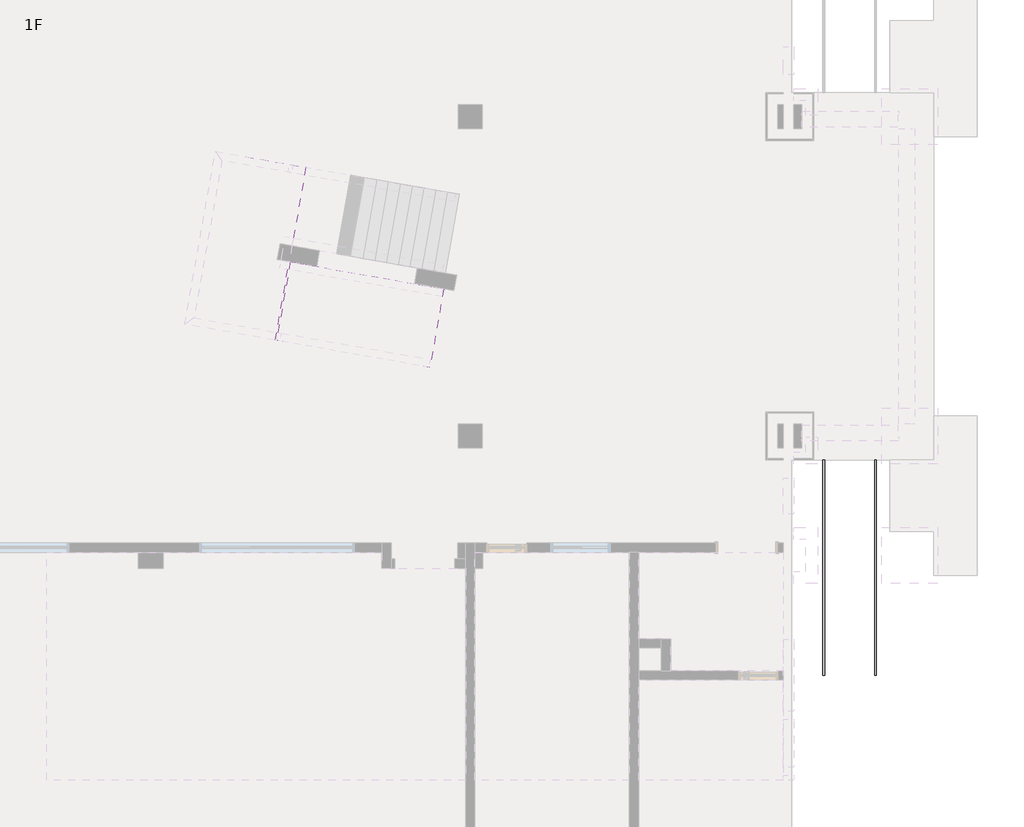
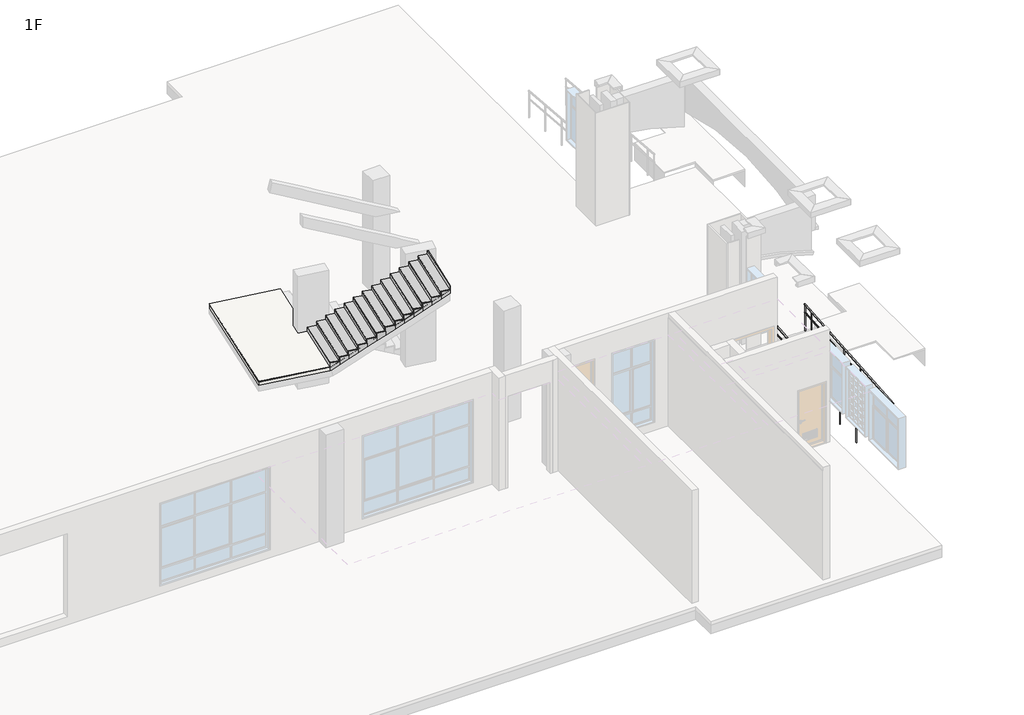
# One storey, part 11 of 16: 2 railings, 1 slab, 1 stair flight.
"""IFC4 building model written with IfcOpenShell, lengths in millimetres."""

from ifc_helpers import new_model, si_unit, frame, origin, place, context, project, spatial, polyline, ellipse_curve, outline, extrude, faceted_brep, element, save
from ifc_brep_helpers import plane_surface, cylinder_surface, advanced_brep

model = new_model("IFC4")

# Units and contexts
model_context = context("Model", 3, world=origin())
ifc_project = project(units=[si_unit("LENGTHUNIT", "METRE", prefix="MILLI")], contexts=[model_context])

# Site, building, storey
site = spatial("IfcSite", under=ifc_project)
building = spatial("IfcBuilding", under=site)
storey = spatial("IfcBuildingStorey", under=building, Name="1F", Elevation=0.0)

# Railings
placement = place(None, origin())
element("IfcRailing", 1, ObjectType="教学楼 – 无障碍坡道扶手 – 1000mm", at=placement, inside=storey, context=model_context, shape_type="AdvancedBrep", body=[
    advanced_brep(
    [(85170.0, 6600.0, 529.9306757), (85130.0, 6600.0, 529.9306757), (85170.0, 12000.0, 979.9306757), (85130.0, 12000.0, 979.9306757)],
    [
        (0, 1, ellipse_curve(frame((85150.0, 6600.0, 529.9306757), z_axis=(0.0, -1.0, 0.0), x_axis=(0.0, 0.0, -1.0)), 20.0693243, 20.0)),
        (1, 0, ellipse_curve(frame((85150.0, 6600.0, 529.9306757), z_axis=(0.0, -1.0, 0.0), x_axis=(0.0, 0.0, -1.0)), 20.0693243, 20.0)),
        (2, 3, ellipse_curve(frame((85150.0, 12000.0, 979.9306757), z_axis=(0.0, 1.0, 0.0), x_axis=(0.0, 0.0, -1.0)), 20.0693243, 20.0)),
        (3, 2, ellipse_curve(frame((85150.0, 12000.0, 979.9306757), z_axis=(0.0, 1.0, 0.0), x_axis=(0.0, 0.0, -1.0)), 20.0693243, 20.0)),
        (0, 2),
        (3, 1),
    ],
    [
        plane_surface(frame((85150.0, 6600.0, 550.0), z_axis=(0.0, -1.0, 0.0), x_axis=(0.0, 0.0, 1.0))),
        plane_surface(frame((85150.0, 12000.0, 1000.0), z_axis=(0.0, 1.0, 0.0), x_axis=(0.0, 0.0, 1.0))),
        cylinder_surface(frame((85150.0, 6601.6609096, 530.0690848), z_axis=(0.0, -0.9965457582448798, -0.08304547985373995), x_axis=(-1.0, 0.0, 0.0)), 20.0),
    ],
    [
        (0, [[1, 2]]),
        (1, [[3, 4]]),
        (2, [[-1, 5, -4, 6]]),
        (2, [[-2, -6, -3, -5]]),
    ],
),
    advanced_brep(
    [(85135.0, 6600.0, 234.9480068), (85165.0, 6600.0, 234.9480068), (85135.0, 12000.0, 684.9480068), (85165.0, 12000.0, 684.9480068)],
    [
        (0, 1, ellipse_curve(frame((85150.0, 6600.0, 234.9480068), z_axis=(0.0, -1.0, 0.0), x_axis=(0.0, 0.0, -1.0)), 15.0519932, 15.0)),
        (1, 0, ellipse_curve(frame((85150.0, 6600.0, 234.9480068), z_axis=(0.0, -1.0, 0.0), x_axis=(0.0, 0.0, -1.0)), 15.0519932, 15.0)),
        (2, 3, ellipse_curve(frame((85150.0, 12000.0, 684.9480068), z_axis=(0.0, 1.0, 0.0), x_axis=(0.0, 0.0, -1.0)), 15.0519932, 15.0)),
        (3, 2, ellipse_curve(frame((85150.0, 12000.0, 684.9480068), z_axis=(0.0, 1.0, 0.0), x_axis=(0.0, 0.0, -1.0)), 15.0519932, 15.0)),
        (0, 2),
        (3, 1),
    ],
    [
        plane_surface(frame((85150.0, 6600.0, 250.0), z_axis=(0.0, -1.0, 0.0), x_axis=(0.0, 0.0, 1.0))),
        plane_surface(frame((85150.0, 12000.0, 700.0), z_axis=(0.0, 1.0, 0.0), x_axis=(0.0, 0.0, 1.0))),
        cylinder_surface(frame((85150.0, 6601.2456822, 235.0518136), z_axis=(0.0, -0.9965457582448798, -0.08304547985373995), x_axis=(1.0, 0.0, 0.0)), 15.0),
    ],
    [
        (0, [[1, 2]]),
        (1, [[3, 4]]),
        (2, [[-1, 5, -4, 6]]),
        (2, [[-2, -6, -3, -5]]),
    ],
),
    advanced_brep(
    [(85162.5, 11600.0, 926.5280181), (85162.5, 11600.0, -33.3333333), (85137.5, 11600.0, -33.3333333), (85137.5, 11600.0, 926.5280181)],
    [
        (0, 1),
        (1, 2, ellipse_curve(frame((85150.0, 11600.0, -33.3333333), z_axis=(0.0, -0.08304547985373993, 0.9965457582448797), x_axis=(0.0, 0.9965457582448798, 0.08304547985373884)), 12.5433277, 12.5)),
        (2, 3),
        (3, 0, ellipse_curve(frame((85150.0, 11600.0, 926.5280181), z_axis=(0.0, 0.08304547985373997, -0.9965457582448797), x_axis=(0.0, 0.9965457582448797, 0.0830454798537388)), 12.5433277, 12.5)),
        (0, 3, ellipse_curve(frame((85150.0, 11600.0, 926.5280181), z_axis=(0.0, 0.08304547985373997, -0.9965457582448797), x_axis=(0.0, 0.9965457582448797, 0.0830454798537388)), 12.5433277, 12.5)),
        (2, 1, ellipse_curve(frame((85150.0, 11600.0, -33.3333333), z_axis=(0.0, -0.08304547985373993, 0.9965457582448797), x_axis=(0.0, 0.9965457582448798, 0.08304547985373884)), 12.5433277, 12.5)),
    ],
    [
        cylinder_surface(frame((85150.0, 11600.0, -133.3333333), z_axis=(0.0, 0.0, 1.0), x_axis=(-1.0, 0.0, 0.0)), 12.5),
        plane_surface(frame((85125.0, 11625.0, 928.6113514), z_axis=(0.0, -0.08304547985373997, 0.9965457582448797), x_axis=(1.0, 0.0, 0.0))),
        plane_surface(frame((85125.0, 11575.0, -35.4166667), z_axis=(0.0, 0.08304547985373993, -0.9965457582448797), x_axis=(1.0, 0.0, 0.0))),
    ],
    [
        (0, [[1, 2, 3, 4]]),
        (0, [[-1, 5, -3, 6]]),
        (1, [[-4, -5]]),
        (2, [[-2, -6]]),
    ],
),
    advanced_brep(
    [(85162.5, 10600.0, 843.1946847), (85162.5, 10600.0, -116.6666667), (85137.5, 10600.0, -116.6666667), (85137.5, 10600.0, 843.1946847)],
    [
        (0, 1),
        (1, 2, ellipse_curve(frame((85150.0, 10600.0, -116.6666667), z_axis=(0.0, -0.08304547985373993, 0.9965457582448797), x_axis=(0.0, 0.9965457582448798, 0.08304547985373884)), 12.5433277, 12.5)),
        (2, 3),
        (3, 0, ellipse_curve(frame((85150.0, 10600.0, 843.1946847), z_axis=(0.0, 0.08304547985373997, -0.9965457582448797), x_axis=(0.0, 0.9965457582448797, 0.0830454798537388)), 12.5433277, 12.5)),
        (0, 3, ellipse_curve(frame((85150.0, 10600.0, 843.1946847), z_axis=(0.0, 0.08304547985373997, -0.9965457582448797), x_axis=(0.0, 0.9965457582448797, 0.0830454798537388)), 12.5433277, 12.5)),
        (2, 1, ellipse_curve(frame((85150.0, 10600.0, -116.6666667), z_axis=(0.0, -0.08304547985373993, 0.9965457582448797), x_axis=(0.0, 0.9965457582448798, 0.08304547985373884)), 12.5433277, 12.5)),
    ],
    [
        cylinder_surface(frame((85150.0, 10600.0, -216.6666667), z_axis=(0.0, 0.0, 1.0), x_axis=(-1.0, 0.0, 0.0)), 12.5),
        plane_surface(frame((85125.0, 10625.0, 845.2780181), z_axis=(0.0, -0.08304547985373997, 0.9965457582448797), x_axis=(1.0, 0.0, 0.0))),
        plane_surface(frame((85125.0, 10575.0, -118.75), z_axis=(0.0, 0.08304547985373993, -0.9965457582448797), x_axis=(1.0, 0.0, 0.0))),
    ],
    [
        (0, [[1, 2, 3, 4]]),
        (0, [[-1, 5, -3, 6]]),
        (1, [[-4, -5]]),
        (2, [[-2, -6]]),
    ],
),
    advanced_brep(
    [(85162.5, 9600.0, 759.8613514), (85162.5, 9600.0, -200.0), (85137.5, 9600.0, -200.0), (85137.5, 9600.0, 759.8613514)],
    [
        (0, 1),
        (1, 2, ellipse_curve(frame((85150.0, 9600.0, -200.0), z_axis=(0.0, -0.08304547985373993, 0.9965457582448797), x_axis=(0.0, 0.9965457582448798, 0.08304547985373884)), 12.5433277, 12.5)),
        (2, 3),
        (3, 0, ellipse_curve(frame((85150.0, 9600.0, 759.8613514), z_axis=(0.0, 0.08304547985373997, -0.9965457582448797), x_axis=(0.0, 0.9965457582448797, 0.0830454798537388)), 12.5433277, 12.5)),
        (0, 3, ellipse_curve(frame((85150.0, 9600.0, 759.8613514), z_axis=(0.0, 0.08304547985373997, -0.9965457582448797), x_axis=(0.0, 0.9965457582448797, 0.0830454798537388)), 12.5433277, 12.5)),
        (2, 1, ellipse_curve(frame((85150.0, 9600.0, -200.0), z_axis=(0.0, -0.08304547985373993, 0.9965457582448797), x_axis=(0.0, 0.9965457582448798, 0.08304547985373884)), 12.5433277, 12.5)),
    ],
    [
        cylinder_surface(frame((85150.0, 9600.0, -300.0), z_axis=(0.0, 0.0, 1.0), x_axis=(-1.0, 0.0, 0.0)), 12.5),
        plane_surface(frame((85125.0, 9625.0, 761.9446847), z_axis=(0.0, -0.08304547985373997, 0.9965457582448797), x_axis=(1.0, 0.0, 0.0))),
        plane_surface(frame((85125.0, 9575.0, -202.0833333), z_axis=(0.0, 0.08304547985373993, -0.9965457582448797), x_axis=(1.0, 0.0, 0.0))),
    ],
    [
        (0, [[1, 2, 3, 4]]),
        (0, [[-1, 5, -3, 6]]),
        (1, [[-4, -5]]),
        (2, [[-2, -6]]),
    ],
),
    advanced_brep(
    [(85162.5, 8600.0, 676.5280181), (85162.5, 8600.0, -283.3333333), (85137.5, 8600.0, -283.3333333), (85137.5, 8600.0, 676.5280181)],
    [
        (0, 1),
        (1, 2, ellipse_curve(frame((85150.0, 8600.0, -283.3333333), z_axis=(0.0, -0.08304547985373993, 0.9965457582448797), x_axis=(0.0, 0.9965457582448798, 0.08304547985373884)), 12.5433277, 12.5)),
        (2, 3),
        (3, 0, ellipse_curve(frame((85150.0, 8600.0, 676.5280181), z_axis=(0.0, 0.08304547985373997, -0.9965457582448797), x_axis=(0.0, 0.9965457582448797, 0.0830454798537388)), 12.5433277, 12.5)),
        (0, 3, ellipse_curve(frame((85150.0, 8600.0, 676.5280181), z_axis=(0.0, 0.08304547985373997, -0.9965457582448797), x_axis=(0.0, 0.9965457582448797, 0.0830454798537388)), 12.5433277, 12.5)),
        (2, 1, ellipse_curve(frame((85150.0, 8600.0, -283.3333333), z_axis=(0.0, -0.08304547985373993, 0.9965457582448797), x_axis=(0.0, 0.9965457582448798, 0.08304547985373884)), 12.5433277, 12.5)),
    ],
    [
        cylinder_surface(frame((85150.0, 8600.0, -383.3333333), z_axis=(0.0, 0.0, 1.0), x_axis=(-1.0, 0.0, 0.0)), 12.5),
        plane_surface(frame((85125.0, 8625.0, 678.6113514), z_axis=(0.0, -0.08304547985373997, 0.9965457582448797), x_axis=(1.0, 0.0, 0.0))),
        plane_surface(frame((85125.0, 8575.0, -285.4166667), z_axis=(0.0, 0.08304547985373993, -0.9965457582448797), x_axis=(1.0, 0.0, 0.0))),
    ],
    [
        (0, [[1, 2, 3, 4]]),
        (0, [[-1, 5, -3, 6]]),
        (1, [[-4, -5]]),
        (2, [[-2, -6]]),
    ],
),
    advanced_brep(
    [(85162.5, 7600.0, 593.1946847), (85162.5, 7600.0, -366.6666667), (85137.5, 7600.0, -366.6666667), (85137.5, 7600.0, 593.1946847)],
    [
        (0, 1),
        (1, 2, ellipse_curve(frame((85150.0, 7600.0, -366.6666667), z_axis=(0.0, -0.08304547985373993, 0.9965457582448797), x_axis=(0.0, 0.9965457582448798, 0.08304547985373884)), 12.5433277, 12.5)),
        (2, 3),
        (3, 0, ellipse_curve(frame((85150.0, 7600.0, 593.1946847), z_axis=(0.0, 0.08304547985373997, -0.9965457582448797), x_axis=(0.0, 0.9965457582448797, 0.0830454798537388)), 12.5433277, 12.5)),
        (0, 3, ellipse_curve(frame((85150.0, 7600.0, 593.1946847), z_axis=(0.0, 0.08304547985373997, -0.9965457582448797), x_axis=(0.0, 0.9965457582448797, 0.0830454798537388)), 12.5433277, 12.5)),
        (2, 1, ellipse_curve(frame((85150.0, 7600.0, -366.6666667), z_axis=(0.0, -0.08304547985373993, 0.9965457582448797), x_axis=(0.0, 0.9965457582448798, 0.08304547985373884)), 12.5433277, 12.5)),
    ],
    [
        cylinder_surface(frame((85150.0, 7600.0, -466.6666667), z_axis=(0.0, 0.0, 1.0), x_axis=(-1.0, 0.0, 0.0)), 12.5),
        plane_surface(frame((85125.0, 7625.0, 595.2780181), z_axis=(0.0, -0.08304547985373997, 0.9965457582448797), x_axis=(1.0, 0.0, 0.0))),
        plane_surface(frame((85125.0, 7575.0, -368.75), z_axis=(0.0, 0.08304547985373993, -0.9965457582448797), x_axis=(1.0, 0.0, 0.0))),
    ],
    [
        (0, [[1, 2, 3, 4]]),
        (0, [[-1, 5, -3, 6]]),
        (1, [[-4, -5]]),
        (2, [[-2, -6]]),
    ],
),
    advanced_brep(
    [(85162.5, 11987.5, 958.8196847), (85162.5, 11987.5, -1.0416667), (85137.5, 11987.5, -1.0416667), (85137.5, 11987.5, 958.8196847)],
    [
        (0, 1),
        (1, 2, ellipse_curve(frame((85150.0, 11987.5, -1.0416667), z_axis=(0.0, -0.08304547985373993, 0.9965457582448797), x_axis=(0.0, 0.9965457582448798, 0.08304547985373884)), 12.5433277, 12.5)),
        (2, 3),
        (3, 0, ellipse_curve(frame((85150.0, 11987.5, 958.8196847), z_axis=(0.0, 0.08304547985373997, -0.9965457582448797), x_axis=(0.0, 0.9965457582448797, 0.0830454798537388)), 12.5433277, 12.5)),
        (0, 3, ellipse_curve(frame((85150.0, 11987.5, 958.8196847), z_axis=(0.0, 0.08304547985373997, -0.9965457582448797), x_axis=(0.0, 0.9965457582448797, 0.0830454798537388)), 12.5433277, 12.5)),
        (2, 1, ellipse_curve(frame((85150.0, 11987.5, -1.0416667), z_axis=(0.0, -0.08304547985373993, 0.9965457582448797), x_axis=(0.0, 0.9965457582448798, 0.08304547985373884)), 12.5433277, 12.5)),
    ],
    [
        cylinder_surface(frame((85150.0, 11987.5, -101.0416667), z_axis=(0.0, 0.0, 1.0), x_axis=(-1.0, 0.0, 0.0)), 12.5),
        plane_surface(frame((85125.0, 12012.5, 960.9030181), z_axis=(0.0, -0.08304547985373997, 0.9965457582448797), x_axis=(1.0, 0.0, 0.0))),
        plane_surface(frame((85125.0, 11962.5, -3.125), z_axis=(0.0, 0.08304547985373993, -0.9965457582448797), x_axis=(1.0, 0.0, 0.0))),
    ],
    [
        (0, [[1, 2, 3, 4]]),
        (0, [[-1, 5, -3, 6]]),
        (1, [[-4, -5]]),
        (2, [[-2, -6]]),
    ],
),
    advanced_brep(
    [(85162.5, 6612.5, 510.9030181), (85162.5, 6612.5, -448.9583333), (85137.5, 6612.5, -448.9583333), (85137.5, 6612.5, 510.9030181)],
    [
        (0, 1),
        (1, 2, ellipse_curve(frame((85150.0, 6612.5, -448.9583333), z_axis=(0.0, -0.08304547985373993, 0.9965457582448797), x_axis=(0.0, 0.9965457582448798, 0.08304547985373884)), 12.5433277, 12.5)),
        (2, 3),
        (3, 0, ellipse_curve(frame((85150.0, 6612.5, 510.9030181), z_axis=(0.0, 0.08304547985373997, -0.9965457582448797), x_axis=(0.0, 0.9965457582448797, 0.0830454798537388)), 12.5433277, 12.5)),
        (0, 3, ellipse_curve(frame((85150.0, 6612.5, 510.9030181), z_axis=(0.0, 0.08304547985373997, -0.9965457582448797), x_axis=(0.0, 0.9965457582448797, 0.0830454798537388)), 12.5433277, 12.5)),
        (2, 1, ellipse_curve(frame((85150.0, 6612.5, -448.9583333), z_axis=(0.0, -0.08304547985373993, 0.9965457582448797), x_axis=(0.0, 0.9965457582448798, 0.08304547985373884)), 12.5433277, 12.5)),
    ],
    [
        cylinder_surface(frame((85150.0, 6612.5, -548.9583333), z_axis=(0.0, 0.0, 1.0), x_axis=(-1.0, 0.0, 0.0)), 12.5),
        plane_surface(frame((85125.0, 6637.5, 512.9863514), z_axis=(0.0, -0.08304547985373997, 0.9965457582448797), x_axis=(1.0, 0.0, 0.0))),
        plane_surface(frame((85125.0, 6587.5, -451.0416667), z_axis=(0.0, 0.08304547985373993, -0.9965457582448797), x_axis=(1.0, 0.0, 0.0))),
    ],
    [
        (0, [[1, 2, 3, 4]]),
        (0, [[-1, 5, -3, 6]]),
        (1, [[-4, -5]]),
        (2, [[-2, -6]]),
    ],
),
])
element("IfcRailing", 2, ObjectType="教学楼 – 无障碍坡道扶手 – 1000mm", at=placement, inside=storey, context=model_context, shape_type="AdvancedBrep", body=[
    advanced_brep(
    [(83870.0, 6600.0, 529.9306757), (83830.0, 6600.0, 529.9306757), (83870.0, 12000.0, 979.9306757), (83830.0, 12000.0, 979.9306757)],
    [
        (0, 1, ellipse_curve(frame((83850.0, 6600.0, 529.9306757), z_axis=(0.0, -1.0, 0.0), x_axis=(0.0, 0.0, -1.0)), 20.0693243, 20.0)),
        (1, 0, ellipse_curve(frame((83850.0, 6600.0, 529.9306757), z_axis=(0.0, -1.0, 0.0), x_axis=(0.0, 0.0, -1.0)), 20.0693243, 20.0)),
        (2, 3, ellipse_curve(frame((83850.0, 12000.0, 979.9306757), z_axis=(0.0, 1.0, 0.0), x_axis=(0.0, 0.0, -1.0)), 20.0693243, 20.0)),
        (3, 2, ellipse_curve(frame((83850.0, 12000.0, 979.9306757), z_axis=(0.0, 1.0, 0.0), x_axis=(0.0, 0.0, -1.0)), 20.0693243, 20.0)),
        (0, 2),
        (3, 1),
    ],
    [
        plane_surface(frame((83850.0, 6600.0, 550.0), z_axis=(0.0, -1.0, 0.0), x_axis=(0.0, 0.0, 1.0))),
        plane_surface(frame((83850.0, 12000.0, 1000.0), z_axis=(0.0, 1.0, 0.0), x_axis=(0.0, 0.0, 1.0))),
        cylinder_surface(frame((83850.0, 6601.6609096, 530.0690848), z_axis=(0.0, -0.9965457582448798, -0.08304547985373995), x_axis=(-1.0, 0.0, 0.0)), 20.0),
    ],
    [
        (0, [[1, 2]]),
        (1, [[3, 4]]),
        (2, [[-1, 5, -4, 6]]),
        (2, [[-2, -6, -3, -5]]),
    ],
),
    advanced_brep(
    [(83865.0, 6600.0, 234.9480068), (83835.0, 6600.0, 234.9480068), (83865.0, 12000.0, 684.9480068), (83835.0, 12000.0, 684.9480068)],
    [
        (0, 1, ellipse_curve(frame((83850.0, 6600.0, 234.9480068), z_axis=(0.0, -1.0, 0.0), x_axis=(0.0, 0.0, -1.0)), 15.0519932, 15.0)),
        (1, 0, ellipse_curve(frame((83850.0, 6600.0, 234.9480068), z_axis=(0.0, -1.0, 0.0), x_axis=(0.0, 0.0, -1.0)), 15.0519932, 15.0)),
        (2, 3, ellipse_curve(frame((83850.0, 12000.0, 684.9480068), z_axis=(0.0, 1.0, 0.0), x_axis=(0.0, 0.0, -1.0)), 15.0519932, 15.0)),
        (3, 2, ellipse_curve(frame((83850.0, 12000.0, 684.9480068), z_axis=(0.0, 1.0, 0.0), x_axis=(0.0, 0.0, -1.0)), 15.0519932, 15.0)),
        (1, 3),
        (2, 0),
    ],
    [
        plane_surface(frame((83850.0, 6600.0, 250.0), z_axis=(0.0, -1.0, 0.0), x_axis=(0.0, 0.0, 1.0))),
        plane_surface(frame((83850.0, 12000.0, 700.0), z_axis=(0.0, 1.0, 0.0), x_axis=(0.0, 0.0, 1.0))),
        cylinder_surface(frame((83850.0, 6601.2456822, 235.0518136), z_axis=(0.0, -0.9965457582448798, -0.08304547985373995), x_axis=(-1.0, 0.0, 0.0)), 15.0),
    ],
    [
        (0, [[1, 2]]),
        (1, [[3, 4]]),
        (2, [[-2, 5, -3, 6]]),
        (2, [[-1, -6, -4, -5]]),
    ],
),
    advanced_brep(
    [(83837.5, 11600.0, 926.5280181), (83862.5, 11600.0, 926.5280181), (83862.5, 11600.0, -33.3333333), (83837.5, 11600.0, -33.3333333)],
    [
        (0, 1, ellipse_curve(frame((83850.0, 11600.0, 926.5280181), z_axis=(0.0, 0.08304547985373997, -0.9965457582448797), x_axis=(0.0, 0.9965457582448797, 0.0830454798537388)), 12.5433277, 12.5)),
        (1, 2),
        (2, 3, ellipse_curve(frame((83850.0, 11600.0, -33.3333333), z_axis=(0.0, -0.08304547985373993, 0.9965457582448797), x_axis=(0.0, 0.9965457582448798, 0.08304547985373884)), 12.5433277, 12.5)),
        (3, 0),
        (3, 2, ellipse_curve(frame((83850.0, 11600.0, -33.3333333), z_axis=(0.0, -0.08304547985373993, 0.9965457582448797), x_axis=(0.0, 0.9965457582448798, 0.08304547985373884)), 12.5433277, 12.5)),
        (1, 0, ellipse_curve(frame((83850.0, 11600.0, 926.5280181), z_axis=(0.0, 0.08304547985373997, -0.9965457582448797), x_axis=(0.0, 0.9965457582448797, 0.0830454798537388)), 12.5433277, 12.5)),
    ],
    [
        cylinder_surface(frame((83850.0, 11600.0, -133.3333333), z_axis=(0.0, 0.0, 1.0), x_axis=(1.0, 0.0, 0.0)), 12.5),
        plane_surface(frame((83875.0, 11625.0, 928.6113514), z_axis=(0.0, -0.08304547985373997, 0.9965457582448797), x_axis=(-1.0, 0.0, 0.0))),
        plane_surface(frame((83875.0, 11575.0, -35.4166667), z_axis=(0.0, 0.08304547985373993, -0.9965457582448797), x_axis=(-1.0, 0.0, 0.0))),
    ],
    [
        (0, [[1, 2, 3, 4]]),
        (0, [[5, -2, 6, -4]]),
        (1, [[-6, -1]]),
        (2, [[-5, -3]]),
    ],
),
    advanced_brep(
    [(83837.5, 10600.0, 843.1946847), (83862.5, 10600.0, 843.1946847), (83862.5, 10600.0, -116.6666667), (83837.5, 10600.0, -116.6666667)],
    [
        (0, 1, ellipse_curve(frame((83850.0, 10600.0, 843.1946847), z_axis=(0.0, 0.08304547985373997, -0.9965457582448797), x_axis=(0.0, 0.9965457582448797, 0.0830454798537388)), 12.5433277, 12.5)),
        (1, 2),
        (2, 3, ellipse_curve(frame((83850.0, 10600.0, -116.6666667), z_axis=(0.0, -0.08304547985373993, 0.9965457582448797), x_axis=(0.0, 0.9965457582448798, 0.08304547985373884)), 12.5433277, 12.5)),
        (3, 0),
        (3, 2, ellipse_curve(frame((83850.0, 10600.0, -116.6666667), z_axis=(0.0, -0.08304547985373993, 0.9965457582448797), x_axis=(0.0, 0.9965457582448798, 0.08304547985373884)), 12.5433277, 12.5)),
        (1, 0, ellipse_curve(frame((83850.0, 10600.0, 843.1946847), z_axis=(0.0, 0.08304547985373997, -0.9965457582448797), x_axis=(0.0, 0.9965457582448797, 0.0830454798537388)), 12.5433277, 12.5)),
    ],
    [
        cylinder_surface(frame((83850.0, 10600.0, -216.6666667), z_axis=(0.0, 0.0, 1.0), x_axis=(1.0, 0.0, 0.0)), 12.5),
        plane_surface(frame((83875.0, 10625.0, 845.2780181), z_axis=(0.0, -0.08304547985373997, 0.9965457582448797), x_axis=(-1.0, 0.0, 0.0))),
        plane_surface(frame((83875.0, 10575.0, -118.75), z_axis=(0.0, 0.08304547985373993, -0.9965457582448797), x_axis=(-1.0, 0.0, 0.0))),
    ],
    [
        (0, [[1, 2, 3, 4]]),
        (0, [[5, -2, 6, -4]]),
        (1, [[-6, -1]]),
        (2, [[-5, -3]]),
    ],
),
    advanced_brep(
    [(83837.5, 9600.0, 759.8613514), (83862.5, 9600.0, 759.8613514), (83862.5, 9600.0, -200.0), (83837.5, 9600.0, -200.0)],
    [
        (0, 1, ellipse_curve(frame((83850.0, 9600.0, 759.8613514), z_axis=(0.0, 0.08304547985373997, -0.9965457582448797), x_axis=(0.0, 0.9965457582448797, 0.0830454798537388)), 12.5433277, 12.5)),
        (1, 2),
        (2, 3, ellipse_curve(frame((83850.0, 9600.0, -200.0), z_axis=(0.0, -0.08304547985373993, 0.9965457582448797), x_axis=(0.0, 0.9965457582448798, 0.08304547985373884)), 12.5433277, 12.5)),
        (3, 0),
        (3, 2, ellipse_curve(frame((83850.0, 9600.0, -200.0), z_axis=(0.0, -0.08304547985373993, 0.9965457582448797), x_axis=(0.0, 0.9965457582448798, 0.08304547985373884)), 12.5433277, 12.5)),
        (1, 0, ellipse_curve(frame((83850.0, 9600.0, 759.8613514), z_axis=(0.0, 0.08304547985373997, -0.9965457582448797), x_axis=(0.0, 0.9965457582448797, 0.0830454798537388)), 12.5433277, 12.5)),
    ],
    [
        cylinder_surface(frame((83850.0, 9600.0, -300.0), z_axis=(0.0, 0.0, 1.0), x_axis=(1.0, 0.0, 0.0)), 12.5),
        plane_surface(frame((83875.0, 9625.0, 761.9446847), z_axis=(0.0, -0.08304547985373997, 0.9965457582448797), x_axis=(-1.0, 0.0, 0.0))),
        plane_surface(frame((83875.0, 9575.0, -202.0833333), z_axis=(0.0, 0.08304547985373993, -0.9965457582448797), x_axis=(-1.0, 0.0, 0.0))),
    ],
    [
        (0, [[1, 2, 3, 4]]),
        (0, [[5, -2, 6, -4]]),
        (1, [[-6, -1]]),
        (2, [[-5, -3]]),
    ],
),
    advanced_brep(
    [(83837.5, 8600.0, 676.5280181), (83862.5, 8600.0, 676.5280181), (83862.5, 8600.0, -283.3333333), (83837.5, 8600.0, -283.3333333)],
    [
        (0, 1, ellipse_curve(frame((83850.0, 8600.0, 676.5280181), z_axis=(0.0, 0.08304547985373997, -0.9965457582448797), x_axis=(0.0, 0.9965457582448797, 0.0830454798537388)), 12.5433277, 12.5)),
        (1, 2),
        (2, 3, ellipse_curve(frame((83850.0, 8600.0, -283.3333333), z_axis=(0.0, -0.08304547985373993, 0.9965457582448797), x_axis=(0.0, 0.9965457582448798, 0.08304547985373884)), 12.5433277, 12.5)),
        (3, 0),
        (3, 2, ellipse_curve(frame((83850.0, 8600.0, -283.3333333), z_axis=(0.0, -0.08304547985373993, 0.9965457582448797), x_axis=(0.0, 0.9965457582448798, 0.08304547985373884)), 12.5433277, 12.5)),
        (1, 0, ellipse_curve(frame((83850.0, 8600.0, 676.5280181), z_axis=(0.0, 0.08304547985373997, -0.9965457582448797), x_axis=(0.0, 0.9965457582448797, 0.0830454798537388)), 12.5433277, 12.5)),
    ],
    [
        cylinder_surface(frame((83850.0, 8600.0, -383.3333333), z_axis=(0.0, 0.0, 1.0), x_axis=(1.0, 0.0, 0.0)), 12.5),
        plane_surface(frame((83875.0, 8625.0, 678.6113514), z_axis=(0.0, -0.08304547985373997, 0.9965457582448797), x_axis=(-1.0, 0.0, 0.0))),
        plane_surface(frame((83875.0, 8575.0, -285.4166667), z_axis=(0.0, 0.08304547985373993, -0.9965457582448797), x_axis=(-1.0, 0.0, 0.0))),
    ],
    [
        (0, [[1, 2, 3, 4]]),
        (0, [[5, -2, 6, -4]]),
        (1, [[-6, -1]]),
        (2, [[-5, -3]]),
    ],
),
    advanced_brep(
    [(83837.5, 7600.0, 593.1946847), (83862.5, 7600.0, 593.1946847), (83862.5, 7600.0, -366.6666667), (83837.5, 7600.0, -366.6666667)],
    [
        (0, 1, ellipse_curve(frame((83850.0, 7600.0, 593.1946847), z_axis=(0.0, 0.08304547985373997, -0.9965457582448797), x_axis=(0.0, 0.9965457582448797, 0.0830454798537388)), 12.5433277, 12.5)),
        (1, 2),
        (2, 3, ellipse_curve(frame((83850.0, 7600.0, -366.6666667), z_axis=(0.0, -0.08304547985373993, 0.9965457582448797), x_axis=(0.0, 0.9965457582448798, 0.08304547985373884)), 12.5433277, 12.5)),
        (3, 0),
        (3, 2, ellipse_curve(frame((83850.0, 7600.0, -366.6666667), z_axis=(0.0, -0.08304547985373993, 0.9965457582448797), x_axis=(0.0, 0.9965457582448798, 0.08304547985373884)), 12.5433277, 12.5)),
        (1, 0, ellipse_curve(frame((83850.0, 7600.0, 593.1946847), z_axis=(0.0, 0.08304547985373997, -0.9965457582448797), x_axis=(0.0, 0.9965457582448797, 0.0830454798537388)), 12.5433277, 12.5)),
    ],
    [
        cylinder_surface(frame((83850.0, 7600.0, -466.6666667), z_axis=(0.0, 0.0, 1.0), x_axis=(1.0, 0.0, 0.0)), 12.5),
        plane_surface(frame((83875.0, 7625.0, 595.2780181), z_axis=(0.0, -0.08304547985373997, 0.9965457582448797), x_axis=(-1.0, 0.0, 0.0))),
        plane_surface(frame((83875.0, 7575.0, -368.75), z_axis=(0.0, 0.08304547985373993, -0.9965457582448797), x_axis=(-1.0, 0.0, 0.0))),
    ],
    [
        (0, [[1, 2, 3, 4]]),
        (0, [[5, -2, 6, -4]]),
        (1, [[-6, -1]]),
        (2, [[-5, -3]]),
    ],
),
    advanced_brep(
    [(83837.5, 11987.5, 958.8196847), (83862.5, 11987.5, 958.8196847), (83862.5, 11987.5, -1.0416667), (83837.5, 11987.5, -1.0416667)],
    [
        (0, 1, ellipse_curve(frame((83850.0, 11987.5, 958.8196847), z_axis=(0.0, 0.08304547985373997, -0.9965457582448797), x_axis=(0.0, 0.9965457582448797, 0.0830454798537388)), 12.5433277, 12.5)),
        (1, 2),
        (2, 3, ellipse_curve(frame((83850.0, 11987.5, -1.0416667), z_axis=(0.0, -0.08304547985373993, 0.9965457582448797), x_axis=(0.0, 0.9965457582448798, 0.08304547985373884)), 12.5433277, 12.5)),
        (3, 0),
        (3, 2, ellipse_curve(frame((83850.0, 11987.5, -1.0416667), z_axis=(0.0, -0.08304547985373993, 0.9965457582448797), x_axis=(0.0, 0.9965457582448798, 0.08304547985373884)), 12.5433277, 12.5)),
        (1, 0, ellipse_curve(frame((83850.0, 11987.5, 958.8196847), z_axis=(0.0, 0.08304547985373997, -0.9965457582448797), x_axis=(0.0, 0.9965457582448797, 0.0830454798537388)), 12.5433277, 12.5)),
    ],
    [
        cylinder_surface(frame((83850.0, 11987.5, -101.0416667), z_axis=(0.0, 0.0, 1.0), x_axis=(1.0, 0.0, 0.0)), 12.5),
        plane_surface(frame((83875.0, 12012.5, 960.9030181), z_axis=(0.0, -0.08304547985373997, 0.9965457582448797), x_axis=(-1.0, 0.0, 0.0))),
        plane_surface(frame((83875.0, 11962.5, -3.125), z_axis=(0.0, 0.08304547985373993, -0.9965457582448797), x_axis=(-1.0, 0.0, 0.0))),
    ],
    [
        (0, [[1, 2, 3, 4]]),
        (0, [[5, -2, 6, -4]]),
        (1, [[-6, -1]]),
        (2, [[-5, -3]]),
    ],
),
    advanced_brep(
    [(83837.5, 6612.5, 510.9030181), (83862.5, 6612.5, 510.9030181), (83862.5, 6612.5, -448.9583333), (83837.5, 6612.5, -448.9583333)],
    [
        (0, 1, ellipse_curve(frame((83850.0, 6612.5, 510.9030181), z_axis=(0.0, 0.08304547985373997, -0.9965457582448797), x_axis=(0.0, 0.9965457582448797, 0.0830454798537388)), 12.5433277, 12.5)),
        (1, 2),
        (2, 3, ellipse_curve(frame((83850.0, 6612.5, -448.9583333), z_axis=(0.0, -0.08304547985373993, 0.9965457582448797), x_axis=(0.0, 0.9965457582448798, 0.08304547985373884)), 12.5433277, 12.5)),
        (3, 0),
        (3, 2, ellipse_curve(frame((83850.0, 6612.5, -448.9583333), z_axis=(0.0, -0.08304547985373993, 0.9965457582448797), x_axis=(0.0, 0.9965457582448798, 0.08304547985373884)), 12.5433277, 12.5)),
        (1, 0, ellipse_curve(frame((83850.0, 6612.5, 510.9030181), z_axis=(0.0, 0.08304547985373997, -0.9965457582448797), x_axis=(0.0, 0.9965457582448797, 0.0830454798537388)), 12.5433277, 12.5)),
    ],
    [
        cylinder_surface(frame((83850.0, 6612.5, -548.9583333), z_axis=(0.0, 0.0, 1.0), x_axis=(1.0, 0.0, 0.0)), 12.5),
        plane_surface(frame((83875.0, 6637.5, 512.9863514), z_axis=(0.0, -0.08304547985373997, 0.9965457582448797), x_axis=(-1.0, 0.0, 0.0))),
        plane_surface(frame((83875.0, 6587.5, -451.0416667), z_axis=(0.0, 0.08304547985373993, -0.9965457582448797), x_axis=(-1.0, 0.0, 0.0))),
    ],
    [
        (0, [[1, 2, 3, 4]]),
        (0, [[5, -2, 6, -4]]),
        (1, [[-6, -1]]),
        (2, [[-5, -3]]),
    ],
),
])

# Slab
element("IfcSlab", 3, ObjectType="120mm 厚度", at=placement, inside=storey, context=model_context, shape_type="SolidModel", body=[
    faceted_brep([(70534.303063, 17360.3965201, 2070.0), (70504.7588304, 17365.6059654, 2070.0), (70852.0551858, 19335.2214714, 2070.0), (70528.7150709, 19392.2350576, 2070.0), (68616.5415864, 19729.4028347, 2070.0), (67852.4896047, 15396.2487215, 2070.0), (70117.5474366, 14996.8579129, 2070.0), (70147.0916692, 14991.6484675, 2070.0), (70494.3880245, 16961.2639735, 2070.0), (70464.843792, 16966.4734189, 2070.0), (70534.303063, 17360.3965201, 1950.0), (70504.7588304, 17365.6059654, 1950.0), (70504.7588304, 17365.6059654, 1920.0), (70504.7588304, 17365.6059654, 1785.8359214), (70852.0551858, 19335.2214714, 1785.8359214), (70852.0551858, 19335.2214714, 1920.0), (70528.7150709, 19392.2350576, 1950.0), (68616.5415864, 19729.4028347, 1950.0), (67852.4896047, 15396.2487215, 1950.0), (70117.5474366, 14996.8579129, 1950.0), (70147.0916692, 14991.6484675, 1950.0), (70494.3880245, 16961.2639735, 1950.0), (70464.843792, 16966.4734189, 1950.0), (70181.4187156, 17422.6195516, 1950.0)], [[[0, 1, 2, 3, 4, 5, 6, 7, 8, 9]], [[1, 0, 10, 11]], [[2, 1, 11, 12, 13, 14, 15]], [[2, 15, 14, 16, 17, 4, 3]], [[5, 4, 17, 18]], [[6, 5, 18, 19]], [[7, 6, 19, 20]], [[8, 7, 20, 21]], [[9, 8, 21, 22]], [[0, 9, 22, 10]], [[16, 23, 11, 10, 22, 21, 20, 19, 18, 17]], [[23, 16, 14, 13]], [[11, 23, 13, 12]]]),
    extrude(outline(polyline([(70534.303063, 17360.3965201), (70464.843792, 16966.4734189), (70117.5474366, 14996.8579129), (67852.4896047, 15396.2487215), (68616.5415864, 19729.4028347), (70881.5994184, 19330.0120261), (70534.303063, 17360.3965201)])), frame((0.0, 0.0, 2070.0), z_axis=(0.0, 0.0, 1.0), x_axis=(1.0, 0.0, 0.0)), (0.0, 0.0, 1.0), 30.0),
])

# Stair flight
element("IfcStairFlight", 4, ObjectType="120mm 结构深度", at=placement, inside=storey, context=model_context, shape_type="SolidModel", body=[
    faceted_brep([(70494.3880245, 16961.2639735, 2220.0), (70147.0916692, 14991.6484675, 2220.0), (70174.9894581, 14986.7293346, 2220.0), (70442.5339951, 14939.5540142, 2220.0), (70789.8303504, 16909.1695202, 2220.0), (70522.2858135, 16956.3448407, 2220.0), (70789.8303504, 16909.1695202, 2085.8359214), (70522.2858135, 16956.3448407, 1950.0), (70494.3880245, 16961.2639735, 1950.0), (70494.3880245, 16961.2639735, 2070.0), (70147.0916692, 14991.6484675, 1950.0), (70147.0916692, 14991.6484675, 2070.0), (70174.9894581, 14986.7293346, 1950.0), (70442.5339951, 14939.5540142, 2085.8359214), (71085.2726763, 16857.0750669, 2370.0), (70789.8303504, 16909.1695202, 2370.0), (70442.5339951, 14939.5540142, 2370.0), (70737.976321, 14887.4595609, 2370.0), (71085.2726763, 16857.0750669, 2235.8359214), (70737.976321, 14887.4595609, 2235.8359214), (71380.7150023, 16804.9806136, 2520.0), (71085.2726763, 16857.0750669, 2520.0), (70737.976321, 14887.4595609, 2520.0), (71033.4186469, 14835.3651076, 2520.0), (71380.7150023, 16804.9806136, 2385.8359214), (71033.4186469, 14835.3651076, 2385.8359214), (71676.1573282, 16752.8861603, 2670.0), (71380.7150023, 16804.9806136, 2670.0), (71033.4186469, 14835.3651076, 2670.0), (71328.8609728, 14783.2706543, 2670.0), (71676.1573282, 16752.8861603, 2535.8359214), (71328.8609728, 14783.2706543, 2535.8359214), (71971.5996541, 16700.791707, 2820.0), (71676.1573282, 16752.8861603, 2820.0), (71328.8609728, 14783.2706543, 2820.0), (71624.3032987, 14731.176201, 2820.0), (71971.5996541, 16700.791707, 2685.8359214), (71624.3032987, 14731.176201, 2685.8359214), (72267.04198, 16648.6972537, 2970.0), (71971.5996541, 16700.791707, 2970.0), (71624.3032987, 14731.176201, 2970.0), (71919.7456246, 14679.0817477, 2970.0), (72267.04198, 16648.6972537, 2835.8359214), (71919.7456246, 14679.0817477, 2835.8359214), (72562.4843059, 16596.6028004, 3120.0), (72267.04198, 16648.6972537, 3120.0), (71919.7456246, 14679.0817477, 3120.0), (72215.1879505, 14626.9872944, 3120.0), (72562.4843059, 16596.6028004, 2985.8359214), (72215.1879505, 14626.9872944, 2985.8359214), (72857.9266318, 16544.5083471, 3270.0), (72562.4843059, 16596.6028004, 3270.0), (72215.1879505, 14626.9872944, 3270.0), (72510.6302764, 14574.8928411, 3270.0), (72857.9266318, 16544.5083471, 3135.8359214), (72510.6302764, 14574.8928411, 3135.8359214), (73153.3689577, 16492.4138938, 3420.0), (72857.9266318, 16544.5083471, 3420.0), (72510.6302764, 14574.8928411, 3420.0), (72806.0726023, 14522.7983878, 3420.0), (73153.3689577, 16492.4138938, 3285.8359214), (72806.0726023, 14522.7983878, 3285.8359214), (73448.8112836, 16440.3194405, 3570.0), (73153.3689577, 16492.4138938, 3570.0), (72806.0726023, 14522.7983878, 3570.0), (73101.5149282, 14470.7039345, 3570.0), (73448.8112836, 16440.3194405, 3435.8359214), (73101.5149282, 14470.7039345, 3435.8359214), (73744.2536095, 16388.2249872, 3720.0), (73448.8112836, 16440.3194405, 3720.0), (73101.5149282, 14470.7039345, 3720.0), (73396.9572541, 14418.6094812, 3720.0), (73744.2536095, 16388.2249872, 3585.8359214), (73396.9572541, 14418.6094812, 3585.8359214), (74039.6959354, 16336.1305339, 3870.0), (73744.2536095, 16388.2249872, 3870.0), (73396.9572541, 14418.6094812, 3870.0), (73692.3995801, 14366.5150279, 3870.0), (74039.6959354, 16336.1305339, 3735.8359214), (73692.3995801, 14366.5150279, 3735.8359214), (74335.1382613, 16284.0360806, 4020.0), (74039.6959354, 16336.1305339, 4020.0), (73692.3995801, 14366.5150279, 4020.0), (73987.841906, 14314.4205746, 4020.0), (74335.1382613, 16284.0360806, 3885.8359214), (73987.841906, 14314.4205746, 3885.8359214)], [[[0, 1, 2, 3, 4, 5]], [[4, 6, 7, 8, 9, 0, 5]], [[1, 0, 9, 8, 10, 11]], [[1, 11, 10, 12, 13, 3, 2]], [[14, 15, 16, 17]], [[15, 14, 18, 6, 4]], [[16, 15, 4, 3]], [[17, 16, 3, 13, 19]], [[20, 21, 22, 23]], [[21, 20, 24, 18, 14]], [[22, 21, 14, 17]], [[23, 22, 17, 19, 25]], [[26, 27, 28, 29]], [[27, 26, 30, 24, 20]], [[28, 27, 20, 23]], [[29, 28, 23, 25, 31]], [[32, 33, 34, 35]], [[33, 32, 36, 30, 26]], [[34, 33, 26, 29]], [[35, 34, 29, 31, 37]], [[38, 39, 40, 41]], [[39, 38, 42, 36, 32]], [[40, 39, 32, 35]], [[41, 40, 35, 37, 43]], [[44, 45, 46, 47]], [[45, 44, 48, 42, 38]], [[46, 45, 38, 41]], [[47, 46, 41, 43, 49]], [[50, 51, 52, 53]], [[51, 50, 54, 48, 44]], [[52, 51, 44, 47]], [[53, 52, 47, 49, 55]], [[56, 57, 58, 59]], [[57, 56, 60, 54, 50]], [[58, 57, 50, 53]], [[59, 58, 53, 55, 61]], [[62, 63, 64, 65]], [[63, 62, 66, 60, 56]], [[64, 63, 56, 59]], [[65, 64, 59, 61, 67]], [[68, 69, 70, 71]], [[69, 68, 72, 66, 62]], [[70, 69, 62, 65]], [[71, 70, 65, 67, 73]], [[74, 75, 76, 77]], [[75, 74, 78, 72, 68]], [[76, 75, 68, 71]], [[77, 76, 71, 73, 79]], [[80, 81, 82, 83]], [[81, 80, 84, 78, 74]], [[82, 81, 74, 77]], [[83, 82, 77, 79, 85]], [[80, 83, 85, 84]], [[12, 7, 6, 18, 24, 30, 36, 42, 48, 54, 60, 66, 72, 78, 84, 85, 79, 73, 67, 61, 55, 49, 43, 37, 31, 25, 19, 13]], [[7, 12, 10, 8]]]),
    extrude(outline(polyline([(70147.0916692, 14991.6484675), (70117.5474366, 14996.8579129), (70464.843792, 16966.4734189), (70494.3880245, 16961.2639735), (70147.0916692, 14991.6484675)])), frame((0.0, 0.0, 2070.0), z_axis=(0.0, 0.0, 1.0), x_axis=(1.0, 0.0, 0.0)), (0.0, 0.0, 1.0), 150.0),
    extrude(outline(polyline([(70760.2861179, 16914.3789656), (70412.9897625, 14944.7634596), (70117.5474366, 14996.8579129), (70464.843792, 16966.4734189), (70760.2861179, 16914.3789656)])), frame((0.0, 0.0, 2220.0), z_axis=(0.0, 0.0, 1.0), x_axis=(1.0, 0.0, 0.0)), (0.0, 0.0, 1.0), 30.0),
    extrude(outline(polyline([(70442.5339951, 14939.5540142), (70412.9897625, 14944.7634596), (70760.2861179, 16914.3789656), (70789.8303504, 16909.1695202), (70442.5339951, 14939.5540142)])), frame((0.0, 0.0, 2220.0), z_axis=(0.0, 0.0, 1.0), x_axis=(1.0, 0.0, 0.0)), (0.0, 0.0, 1.0), 150.0),
    extrude(outline(polyline([(71055.7284438, 16862.2845123), (70708.4320884, 14892.6690063), (70412.9897625, 14944.7634596), (70760.2861179, 16914.3789656), (71055.7284438, 16862.2845123)])), frame((0.0, 0.0, 2370.0), z_axis=(0.0, 0.0, 1.0), x_axis=(1.0, 0.0, 0.0)), (0.0, 0.0, 1.0), 30.0),
    extrude(outline(polyline([(70737.976321, 14887.4595609), (70708.4320884, 14892.6690063), (71055.7284438, 16862.2845123), (71085.2726763, 16857.0750669), (70737.976321, 14887.4595609)])), frame((0.0, 0.0, 2370.0), z_axis=(0.0, 0.0, 1.0), x_axis=(1.0, 0.0, 0.0)), (0.0, 0.0, 1.0), 150.0),
    extrude(outline(polyline([(71351.1707697, 16810.190059), (71003.8744143, 14840.574553), (70708.4320884, 14892.6690063), (71055.7284438, 16862.2845123), (71351.1707697, 16810.190059)])), frame((0.0, 0.0, 2520.0), z_axis=(0.0, 0.0, 1.0), x_axis=(1.0, 0.0, 0.0)), (0.0, 0.0, 1.0), 30.0),
    extrude(outline(polyline([(71033.4186469, 14835.3651076), (71003.8744143, 14840.574553), (71351.1707697, 16810.190059), (71380.7150023, 16804.9806136), (71033.4186469, 14835.3651076)])), frame((0.0, 0.0, 2520.0), z_axis=(0.0, 0.0, 1.0), x_axis=(1.0, 0.0, 0.0)), (0.0, 0.0, 1.0), 150.0),
    extrude(outline(polyline([(71646.6130956, 16758.0956057), (71299.3167402, 14788.4800997), (71003.8744143, 14840.574553), (71351.1707697, 16810.190059), (71646.6130956, 16758.0956057)])), frame((0.0, 0.0, 2670.0), z_axis=(0.0, 0.0, 1.0), x_axis=(1.0, 0.0, 0.0)), (0.0, 0.0, 1.0), 30.0),
    extrude(outline(polyline([(71328.8609728, 14783.2706543), (71299.3167402, 14788.4800997), (71646.6130956, 16758.0956057), (71676.1573282, 16752.8861603), (71328.8609728, 14783.2706543)])), frame((0.0, 0.0, 2670.0), z_axis=(0.0, 0.0, 1.0), x_axis=(1.0, 0.0, 0.0)), (0.0, 0.0, 1.0), 150.0),
    extrude(outline(polyline([(71942.0554215, 16706.0011524), (71594.7590661, 14736.3856464), (71299.3167402, 14788.4800997), (71646.6130956, 16758.0956057), (71942.0554215, 16706.0011524)])), frame((0.0, 0.0, 2820.0), z_axis=(0.0, 0.0, 1.0), x_axis=(1.0, 0.0, 0.0)), (0.0, 0.0, 1.0), 30.0),
    extrude(outline(polyline([(71624.3032987, 14731.176201), (71594.7590661, 14736.3856464), (71942.0554215, 16706.0011524), (71971.5996541, 16700.791707), (71624.3032987, 14731.176201)])), frame((0.0, 0.0, 2820.0), z_axis=(0.0, 0.0, 1.0), x_axis=(1.0, 0.0, 0.0)), (0.0, 0.0, 1.0), 150.0),
    extrude(outline(polyline([(72237.4977474, 16653.9066991), (71890.201392, 14684.2911931), (71594.7590661, 14736.3856464), (71942.0554215, 16706.0011524), (72237.4977474, 16653.9066991)])), frame((0.0, 0.0, 2970.0), z_axis=(0.0, 0.0, 1.0), x_axis=(1.0, 0.0, 0.0)), (0.0, 0.0, 1.0), 30.0),
    extrude(outline(polyline([(71919.7456246, 14679.0817477), (71890.201392, 14684.2911931), (72237.4977474, 16653.9066991), (72267.04198, 16648.6972537), (71919.7456246, 14679.0817477)])), frame((0.0, 0.0, 2970.0), z_axis=(0.0, 0.0, 1.0), x_axis=(1.0, 0.0, 0.0)), (0.0, 0.0, 1.0), 150.0),
    extrude(outline(polyline([(72532.9400733, 16601.8122458), (72185.6437179, 14632.1967398), (71890.201392, 14684.2911931), (72237.4977474, 16653.9066991), (72532.9400733, 16601.8122458)])), frame((0.0, 0.0, 3120.0), z_axis=(0.0, 0.0, 1.0), x_axis=(1.0, 0.0, 0.0)), (0.0, 0.0, 1.0), 30.0),
    extrude(outline(polyline([(72215.1879505, 14626.9872944), (72185.6437179, 14632.1967398), (72532.9400733, 16601.8122458), (72562.4843059, 16596.6028004), (72215.1879505, 14626.9872944)])), frame((0.0, 0.0, 3120.0), z_axis=(0.0, 0.0, 1.0), x_axis=(1.0, 0.0, 0.0)), (0.0, 0.0, 1.0), 150.0),
    extrude(outline(polyline([(72828.3823992, 16549.7177925), (72481.0860438, 14580.1022865), (72185.6437179, 14632.1967398), (72532.9400733, 16601.8122458), (72828.3823992, 16549.7177925)])), frame((0.0, 0.0, 3270.0), z_axis=(0.0, 0.0, 1.0), x_axis=(1.0, 0.0, 0.0)), (0.0, 0.0, 1.0), 30.0),
    extrude(outline(polyline([(72510.6302764, 14574.8928411), (72481.0860438, 14580.1022865), (72828.3823992, 16549.7177925), (72857.9266318, 16544.5083471), (72510.6302764, 14574.8928411)])), frame((0.0, 0.0, 3270.0), z_axis=(0.0, 0.0, 1.0), x_axis=(1.0, 0.0, 0.0)), (0.0, 0.0, 1.0), 150.0),
    extrude(outline(polyline([(73123.8247251, 16497.6233392), (72776.5283698, 14528.0078332), (72481.0860438, 14580.1022865), (72828.3823992, 16549.7177925), (73123.8247251, 16497.6233392)])), frame((0.0, 0.0, 3420.0), z_axis=(0.0, 0.0, 1.0), x_axis=(1.0, 0.0, 0.0)), (0.0, 0.0, 1.0), 30.0),
    extrude(outline(polyline([(72806.0726023, 14522.7983878), (72776.5283698, 14528.0078332), (73123.8247251, 16497.6233392), (73153.3689577, 16492.4138938), (72806.0726023, 14522.7983878)])), frame((0.0, 0.0, 3420.0), z_axis=(0.0, 0.0, 1.0), x_axis=(1.0, 0.0, 0.0)), (0.0, 0.0, 1.0), 150.0),
    extrude(outline(polyline([(73419.267051, 16445.5288859), (73071.9706957, 14475.9133799), (72776.5283698, 14528.0078332), (73123.8247251, 16497.6233392), (73419.267051, 16445.5288859)])), frame((0.0, 0.0, 3570.0), z_axis=(0.0, 0.0, 1.0), x_axis=(1.0, 0.0, 0.0)), (0.0, 0.0, 1.0), 30.0),
    extrude(outline(polyline([(73101.5149282, 14470.7039345), (73071.9706957, 14475.9133799), (73419.267051, 16445.5288859), (73448.8112836, 16440.3194405), (73101.5149282, 14470.7039345)])), frame((0.0, 0.0, 3570.0), z_axis=(0.0, 0.0, 1.0), x_axis=(1.0, 0.0, 0.0)), (0.0, 0.0, 1.0), 150.0),
    extrude(outline(polyline([(73714.7093769, 16393.4344326), (73367.4130216, 14423.8189266), (73071.9706957, 14475.9133799), (73419.267051, 16445.5288859), (73714.7093769, 16393.4344326)])), frame((0.0, 0.0, 3720.0), z_axis=(0.0, 0.0, 1.0), x_axis=(1.0, 0.0, 0.0)), (0.0, 0.0, 1.0), 30.0),
    extrude(outline(polyline([(73396.9572541, 14418.6094812), (73367.4130216, 14423.8189266), (73714.7093769, 16393.4344326), (73744.2536095, 16388.2249872), (73396.9572541, 14418.6094812)])), frame((0.0, 0.0, 3720.0), z_axis=(0.0, 0.0, 1.0), x_axis=(1.0, 0.0, 0.0)), (0.0, 0.0, 1.0), 150.0),
    extrude(outline(polyline([(74010.1517028, 16341.3399793), (73662.8553475, 14371.7244733), (73367.4130216, 14423.8189266), (73714.7093769, 16393.4344326), (74010.1517028, 16341.3399793)])), frame((0.0, 0.0, 3870.0), z_axis=(0.0, 0.0, 1.0), x_axis=(1.0, 0.0, 0.0)), (0.0, 0.0, 1.0), 30.0),
    extrude(outline(polyline([(73692.3995801, 14366.5150279), (73662.8553475, 14371.7244733), (74010.1517028, 16341.3399793), (74039.6959354, 16336.1305339), (73692.3995801, 14366.5150279)])), frame((0.0, 0.0, 3870.0), z_axis=(0.0, 0.0, 1.0), x_axis=(1.0, 0.0, 0.0)), (0.0, 0.0, 1.0), 150.0),
    extrude(outline(polyline([(73987.841906, 14314.4205746), (73958.2976734, 14319.63002), (74305.5940287, 16289.245526), (74335.1382613, 16284.0360806), (73987.841906, 14314.4205746)])), frame((0.0, 0.0, 4020.0), z_axis=(0.0, 0.0, 1.0), x_axis=(1.0, 0.0, 0.0)), (0.0, 0.0, 1.0), 150.0),
    extrude(outline(polyline([(74305.5940287, 16289.245526), (73958.2976734, 14319.63002), (73662.8553475, 14371.7244733), (74010.1517028, 16341.3399793), (74305.5940287, 16289.245526)])), frame((0.0, 0.0, 4020.0), z_axis=(0.0, 0.0, 1.0), x_axis=(1.0, 0.0, 0.0)), (0.0, 0.0, 1.0), 30.0),
])

save(model, "model.ifc")
